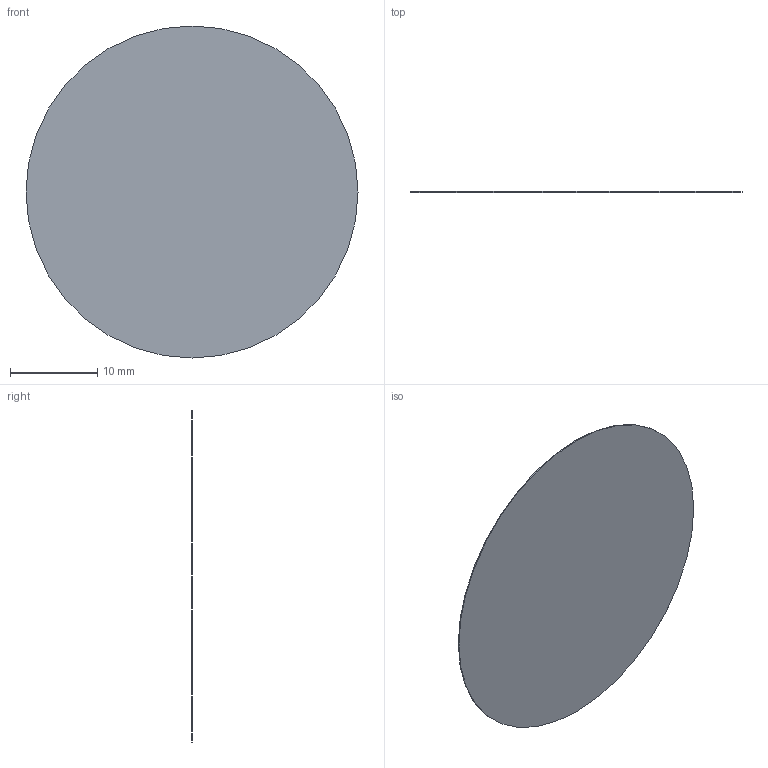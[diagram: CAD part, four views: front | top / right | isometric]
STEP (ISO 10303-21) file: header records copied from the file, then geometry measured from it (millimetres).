
FILE_DESCRIPTION(('Open CASCADE Model'),'2;1');
FILE_NAME('REFERENCE_acoustic_mesh_0p10_solid_envelope_NOT_printable', '2026-09-06T11:35:16',('Author'),('Open CASCADE'), 'Open CASCADE STEP processor 7.8','build123d','Unknown');
FILE_SCHEMA(('AUTOMOTIVE_DESIGN { 1 0 10303 214 1 1 1 1 }'));
Length unit declared in the file: millimetre
Products named in the file (1): REFERENCE_acoustic_mesh_0p10_solid_envelope_NOT_printable
Bounding box: 38 x 0.1 x 38 mm (x, y, z)
Volume: 113.4 mm3; surface area: 2280.2 mm2
Topology: 1 solids, 1 shells, 3 faces, 3 edges, 2 vertices
Faces by surface type: plane 2, cylinder 1
Full cylindrical faces by diameter (mm): 38 x1
Entity records: 108 total; most frequent: DIRECTION 19, CARTESIAN_POINT 15, AXIS2_PLACEMENT_3D 6, ORIENTED_EDGE 6, PCURVE 6, DEFINITIONAL_REPRESENTATION 6, LINE 5, VECTOR 5
